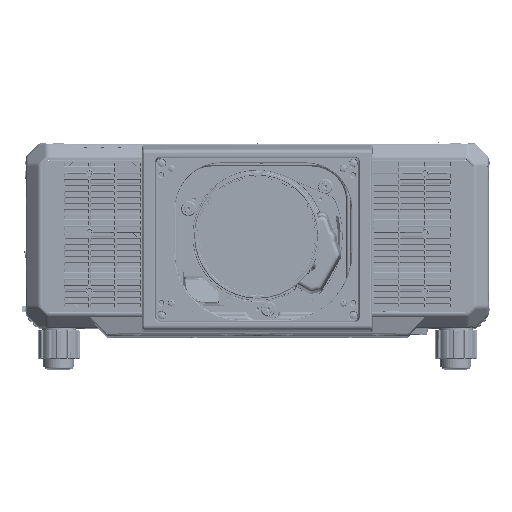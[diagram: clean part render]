
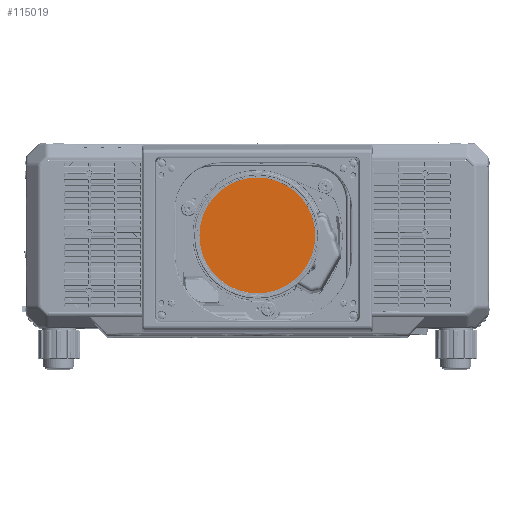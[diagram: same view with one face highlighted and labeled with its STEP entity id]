
A CAD part, top view. The second image highlights one B-rep face of the part: STEP entity #115019.
In plain terms, the highlighted planar face has unit normal (0, 0, 1).
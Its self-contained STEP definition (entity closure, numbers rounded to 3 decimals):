
#97883=CIRCLE('',#358890,68.8);
#115019=ADVANCED_FACE('',(#130095),#120179,.T.);
#120179=PLANE('',#358915);
#130095=FACE_OUTER_BOUND('',#142136,.T.);
#142136=EDGE_LOOP('',(#198495));
#198495=ORIENTED_EDGE('',*,*,#281737,.F.);
#235868=VERTEX_POINT('',#564657);
#281737=EDGE_CURVE('',#235868,#235868,#97883,.T.);
#358890=AXIS2_PLACEMENT_3D('',#564656,#435426,#435427);
#358915=AXIS2_PLACEMENT_3D('',#564694,#435476,#435477);
#435426=DIRECTION('',(0.,0.,-1.));
#435427=DIRECTION('',(0.,-1.,0.));
#435476=DIRECTION('',(0.,0.,1.));
#435477=DIRECTION('',(0.,-1.,0.));
#564656=CARTESIAN_POINT('',(0.,0.,
483.146));
#564657=CARTESIAN_POINT('',(0.,-68.8,483.146));
#564694=CARTESIAN_POINT('',(0.,0.,
483.146));
